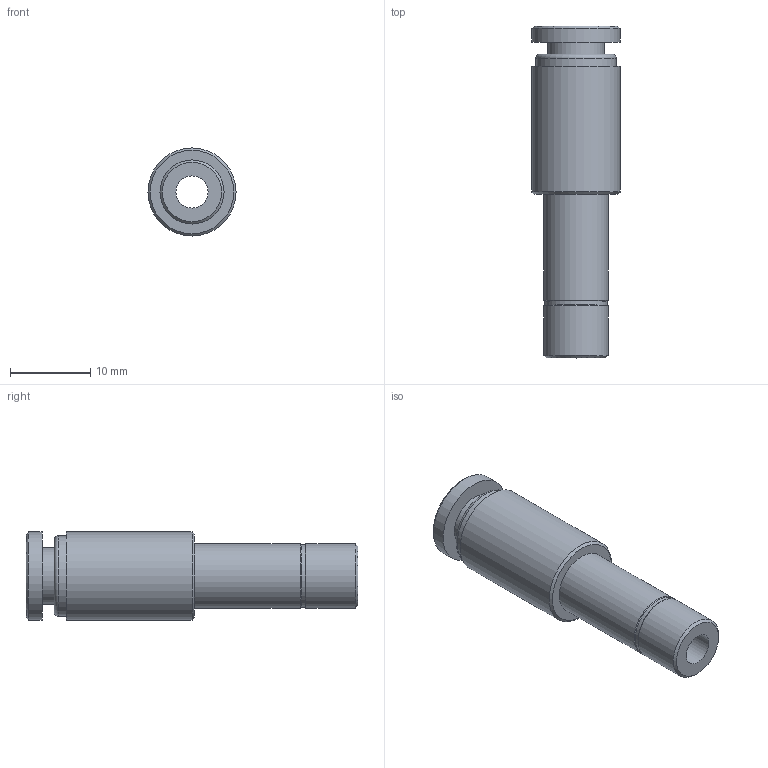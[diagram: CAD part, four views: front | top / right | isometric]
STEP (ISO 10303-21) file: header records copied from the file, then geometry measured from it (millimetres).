
FILE_DESCRIPTION(/* description */ (''),/* implementation_level */ '2;1');
FILE_NAME(/* name */ 'LXH66 0806 00.stp',/* time_stamp */ '2026-04-19T15:14:44+02:00',/* author */ ('freju'),/* organization */ (''),/* preprocessor_version */ 'ST-DEVELOPER v20.1',/* originating_system */ 'Autodesk Inventor 2026',/* authorisation */ '');
FILE_SCHEMA (('AUTOMOTIVE_DESIGN { 1 0 10303 214 3 1 1 }'));
Length unit declared in the file: millimetre
Products named in the file (1): LXH66 0806 00
Bounding box: 11 x 41.4 x 11 mm (x, y, z)
Volume: 2116.8 mm3; surface area: 2098.6 mm2
Topology: 1 solids, 1 shells, 22 faces, 45 edges, 30 vertices
Faces by surface type: cylinder 9, plane 7, torus 3, cone 3
Full cylindrical faces by diameter (mm): 4 x1, 6 x1, 7 x1, 7.8 x1, 8 x2, 10 x1, 11 x2
Entity records: 649 total; most frequent: DIRECTION 124, CARTESIAN_POINT 98, ORIENTED_EDGE 90, AXIS2_PLACEMENT_3D 56, EDGE_CURVE 45, CIRCLE 33, VERTEX_POINT 30, EDGE_LOOP 29
